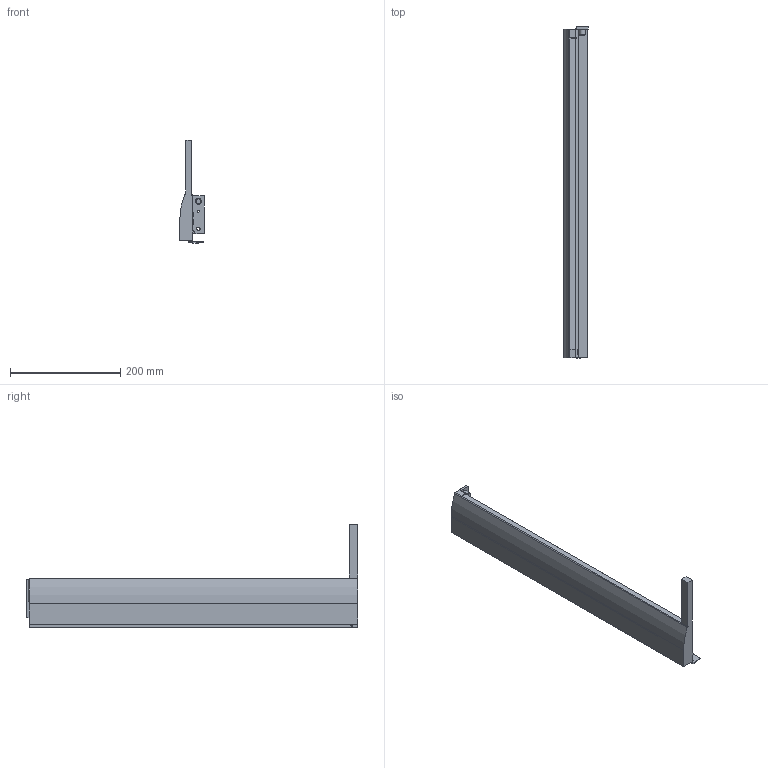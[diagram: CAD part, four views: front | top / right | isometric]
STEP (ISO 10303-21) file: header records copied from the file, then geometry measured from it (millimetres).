
FILE_DESCRIPTION (( 'STEP AP214' ), '1' );
FILE_NAME ('_IMOS_NOVA-Pro_Crystal_Dekor-H90_DL_NL600_LI.step', '2010-07-14T12:43:37', ( 'grass' ), ( '' ), 'SwSTEP 2.0', 'SolidWorks 2009', '' );
FILE_SCHEMA (( 'AUTOMOTIVE_DESIGN' ));
Length unit declared in the file: millimetre
Products named in the file (1): _IMOS_NOVA-Pro_Crystal_Dekor-H90_DL_NL600_LI
Bounding box: 44.3 x 602.7 x 188.49 mm (x, y, z)
Volume: 667140.3 mm3; surface area: 210250.9 mm2
Topology: 1 solids, 1 shells, 87 faces, 235 edges, 155 vertices
Faces by surface type: plane 55, cylinder 27, cone 4, bspline 1
Entity records: 2781 total; most frequent: CARTESIAN_POINT 499, ORIENTED_EDGE 470, DIRECTION 466, EDGE_CURVE 235, VECTOR 174, LINE 174, VERTEX_POINT 155, AXIS2_PLACEMENT_3D 146
